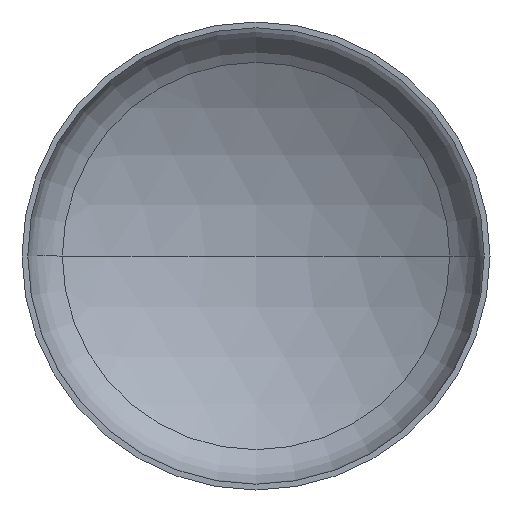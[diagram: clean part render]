
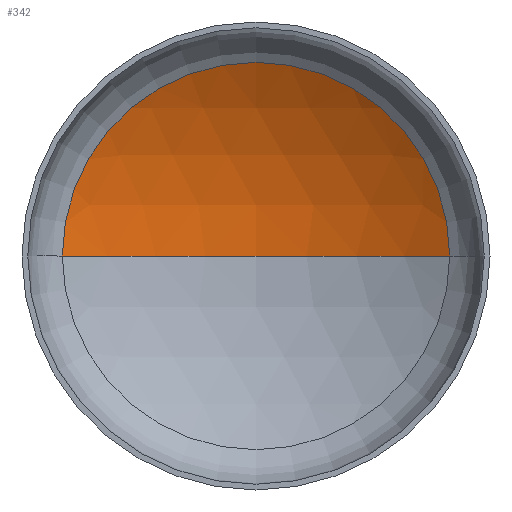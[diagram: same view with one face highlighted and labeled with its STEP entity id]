
A CAD part, front view. The second image highlights one B-rep face of the part: STEP entity #342.
In plain terms, the highlighted spherical face has radius 1360 mm.
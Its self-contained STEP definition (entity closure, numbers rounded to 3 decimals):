
#1 = ORIENTED_EDGE ( 'NONE', *, *, #104, .T. ) ;
#8 = AXIS2_PLACEMENT_3D ( 'NONE', #216, #234, #233 ) ;
#13 = ORIENTED_EDGE ( 'NONE', *, *, #106, .T. ) ;
#41 = AXIS2_PLACEMENT_3D ( 'NONE', #176, #169, #168 ) ;
#42 = AXIS2_PLACEMENT_3D ( 'NONE', #293, #283, #120 ) ;
#44 = AXIS2_PLACEMENT_3D ( 'NONE', #275, #289, #306 ) ;
#66 = ORIENTED_EDGE ( 'NONE', *, *, #107, .F. ) ;
#72 = EDGE_LOOP ( 'NONE', ( #66, #13, #1 ) ) ;
#100 = VERTEX_POINT ( 'NONE', #303 ) ;
#104 = EDGE_CURVE ( 'NONE', #143, #100, #387, .T. ) ;
#106 = EDGE_CURVE ( 'NONE', #151, #143, #338, .T. ) ;
#107 = EDGE_CURVE ( 'NONE', #151, #100, #124, .T. ) ;
#120 = DIRECTION ( 'NONE',  ( -1., 0., 0. ) ) ;
#124 = CIRCLE ( 'NONE', #41, 1360. ) ;
#134 = CARTESIAN_POINT ( 'NONE',  ( 703.491, 292.513, 0. ) ) ;
#143 = VERTEX_POINT ( 'NONE', #134 ) ;
#151 = VERTEX_POINT ( 'NONE', #204 ) ;
#168 = DIRECTION ( 'NONE',  ( 1., 0., 0. ) ) ;
#169 = DIRECTION ( 'NONE',  ( 0., 0., 1. ) ) ;
#176 = CARTESIAN_POINT ( 'NONE',  ( 0., -871.403, 0. ) ) ;
#204 = CARTESIAN_POINT ( 'NONE',  ( 0., 488.597, 0. ) ) ;
#216 = CARTESIAN_POINT ( 'NONE',  ( 0., -871.403, 0. ) ) ;
#233 = DIRECTION ( 'NONE',  ( -1., 0., 0. ) ) ;
#234 = DIRECTION ( 'NONE',  ( 0., 0., -1. ) ) ;
#275 = CARTESIAN_POINT ( 'NONE',  ( 0., 292.513, 0. ) ) ;
#283 = DIRECTION ( 'NONE',  ( 0., 0., -1. ) ) ;
#289 = DIRECTION ( 'NONE',  ( 0., -1., 0. ) ) ;
#293 = CARTESIAN_POINT ( 'NONE',  ( 0., -871.403, 0. ) ) ;
#303 = CARTESIAN_POINT ( 'NONE',  ( -703.491, 292.513, 0. ) ) ;
#306 = DIRECTION ( 'NONE',  ( 1., 0., 0. ) ) ;
#315 = SPHERICAL_SURFACE ( 'NONE', #8, 1360. ) ;
#338 = CIRCLE ( 'NONE', #42, 1360. ) ;
#342 = ADVANCED_FACE ( 'NONE', ( #407 ), #315, .F. ) ;
#387 = CIRCLE ( 'NONE', #44, 703.491 ) ;
#407 = FACE_OUTER_BOUND ( 'NONE', #72, .T. ) ;
